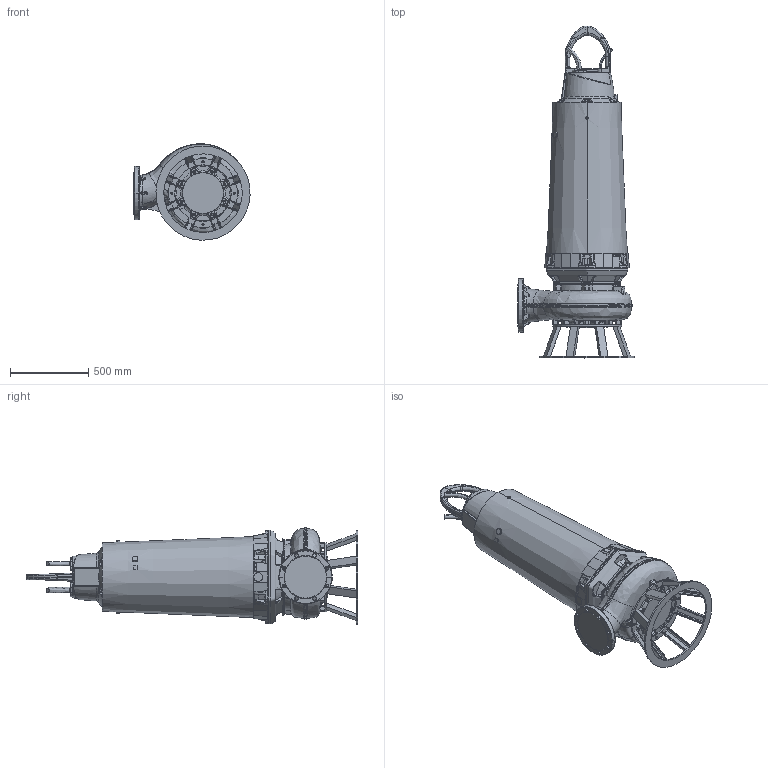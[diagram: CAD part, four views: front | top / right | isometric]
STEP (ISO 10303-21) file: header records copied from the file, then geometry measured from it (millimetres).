
FILE_DESCRIPTION (( 'STEP AP214' ), '1' );
FILE_NAME ('PE5_XFP200J-CH2_WET T_B_NG2.STEP', '2017-03-15T08:01:14', ( '' ), ( '' ), 'SwSTEP 2.0', 'SolidWorks 2017', '' );
FILE_SCHEMA (( 'AUTOMOTIVE_DESIGN' ));
Length unit declared in the file: millimetre
Products named in the file (1): PE5_XFP200J-CH2_WET T_B_NG2
Bounding box: 739.71 x 2114.47 x 613.46 mm (x, y, z)
Volume: 290890160.7 mm3; surface area: 4007324.9 mm2
Topology: 3 solids, 3 shells, 2491 faces, 6280 edges, 3733 vertices
Faces by surface type: bspline 903, plane 504, cylinder 490, cone 284, torus 272, sphere 38
Entity records: 175938 total; most frequent: CARTESIAN_POINT 96939, ORIENTED_EDGE 12352, DIRECTION 8816, EDGE_CURVE 6176, VERTEX_POINT 3733, AXIS2_PLACEMENT_3D 3621, EDGE_LOOP 2581, UNCERTAINTY_MEASURE_WITH_UNIT 2496
